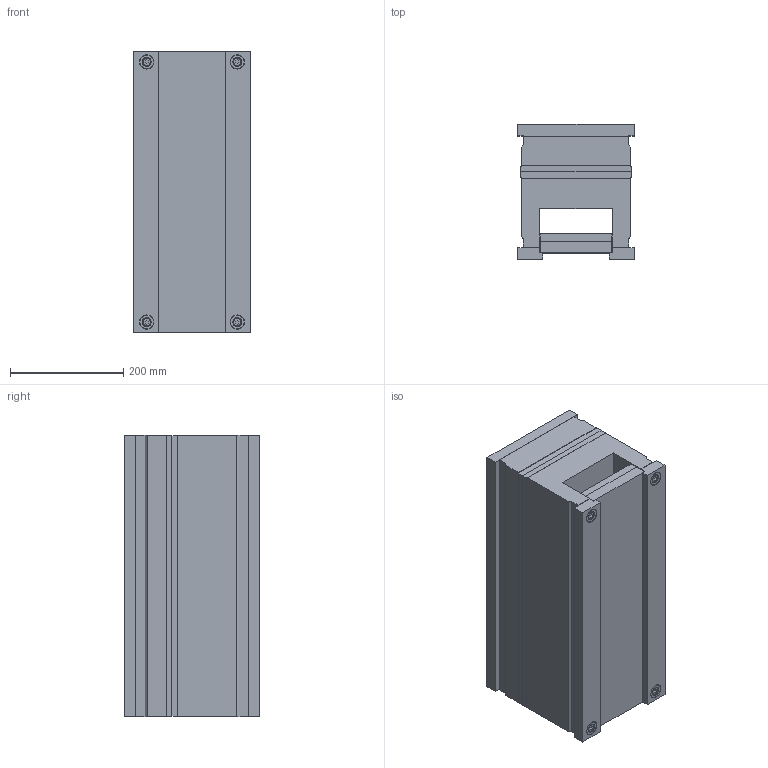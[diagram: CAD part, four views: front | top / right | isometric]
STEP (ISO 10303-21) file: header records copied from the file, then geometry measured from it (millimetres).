
FILE_DESCRIPTION (( 'STEP AP214' ), '1' );
FILE_NAME ('1967.STEP', '2002-07-10T07:53:14', ( 'Simcha Kilim' ), ( 'K. Plastics Engineering' ), 'SwSTEP 2.0', 'SolidWorks 2002025', '' );
FILE_SCHEMA (( 'AUTOMOTIVE_DESIGN' ));
Length unit declared in the file: millimetre
Products named in the file (12): 1967; ALMO (guide bush)_Ø15; ALMO (guide pin)_Ø14; ALMO (ejector plate)_1967; ALMO (ejector half)_1967; ALMO (guide pin)_Ø15; ALMO (hot half)_1967; ALMO (guide bush)_Ø14; ALMO (screw)_M8x115; ALMO (key plate)_Ø14; ALMO (ejector return plate)_1967; ALMO (screw)_M8x60
Assembly tree (28 placements, depth 2):
  1967
    ALMO (guide bush)_Ø15
    ALMO (key plate)_Ø14  x8
    ALMO (screw)_M8x60  x4
    ALMO (screw)_M8x115  x4
    ALMO (hot half)_1967
    ALMO (ejector plate)_1967
    ALMO (guide bush)_Ø14  x3
    ALMO (guide pin)_Ø15
    ALMO (guide pin)_Ø14  x3
    ALMO (ejector return plate)_1967
    ALMO (ejector half)_1967
Bounding box: 206 x 239 x 498 mm (x, y, z)
Volume: 19482859.5 mm3; surface area: 1248183 mm2
Topology: 28 solids, 28 shells, 706 faces, 1496 edges, 924 vertices
Faces by surface type: cylinder 260, plane 254, cone 192
Entity records: 10477 total; most frequent: DIRECTION 1914, CARTESIAN_POINT 1683, ORIENTED_EDGE 1584, EDGE_CURVE 792, AXIS2_PLACEMENT_3D 729, VERTEX_POINT 498, VECTOR 456, LINE 456
